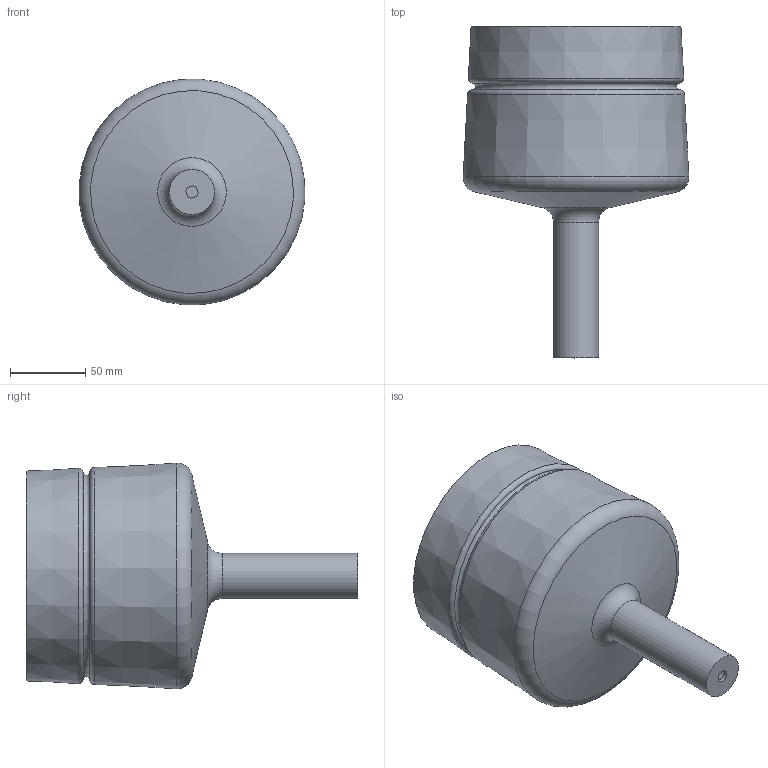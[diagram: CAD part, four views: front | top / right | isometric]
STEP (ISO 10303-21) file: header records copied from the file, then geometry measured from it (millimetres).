
FILE_DESCRIPTION(/* description */ (''),/* implementation_level */ '2;1');
FILE_NAME(/* name */ 'C:\Users\STEFANO\Desktop\1501-20 - ACORN SOSPENSIONE SMALL F.E\SEM.000008.stp',/* time_stamp */ '2019-09-10T14:35:38+02:00',/* author */ ('STEFANO'),/* organization */ (''),/* preprocessor_version */ 'ST-DEVELOPER v17',/* originating_system */ 'Autodesk Inventor 2019',/* authorisation */ '');
FILE_SCHEMA (('AUTOMOTIVE_DESIGN { 1 0 10303 214 3 1 1 }'));
Length unit declared in the file: millimetre
Products named in the file (3): SEM.000008; P08_022 - Corpo Mini; Parte67
Assembly tree (2 placements, depth 2):
  SEM.000008
    P08_022 - Corpo Mini
    Parte67
Bounding box: 149.62 x 220 x 149.62 mm (x, y, z)
Volume: 536615.2 mm3; surface area: 188140.3 mm2
Topology: 2 solids, 2 shells, 30 faces, 95 edges, 71 vertices
Faces by surface type: torus 10, cone 8, cylinder 6, plane 6
Full cylindrical faces by diameter (mm): 8 x1, 25 x1, 30 x1, 80 x1, 100 x1, 120 x1
Entity records: 1258 total; most frequent: DIRECTION 246, CARTESIAN_POINT 201, ORIENTED_EDGE 190, AXIS2_PLACEMENT_3D 116, EDGE_CURVE 95, CIRCLE 81, VERTEX_POINT 71, EDGE_LOOP 34
